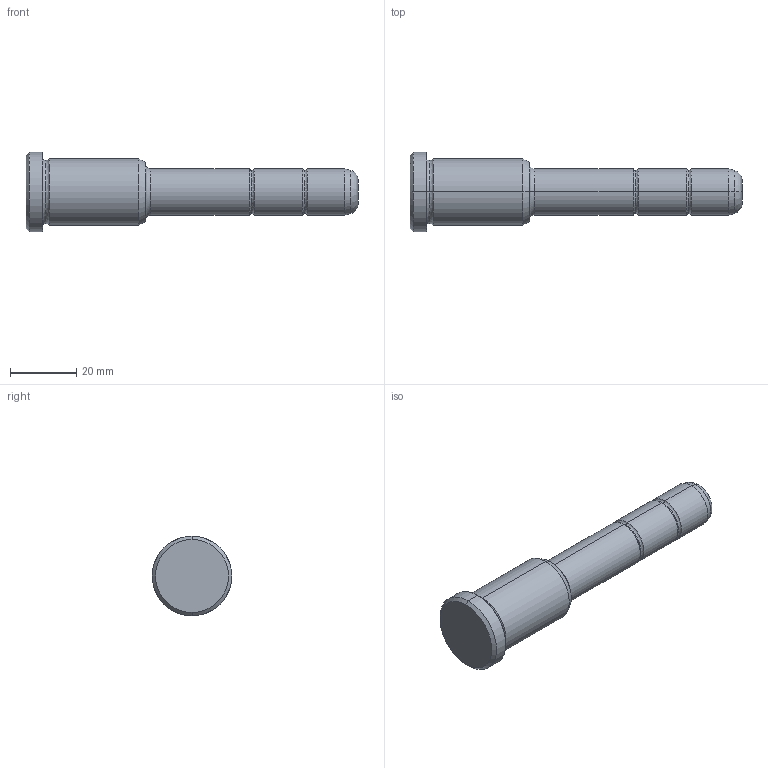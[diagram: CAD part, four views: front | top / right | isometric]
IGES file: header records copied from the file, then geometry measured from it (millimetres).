
Start section: START RECORD GO HERE.
Global section: file name: 351-14X36X100.igs; native system: DASSAULT SYSTEMES CATIA V5 R20 - www.3ds.com; preprocessor: CATIA Version 5 Release 20 ; author: Utente; organization: NB04-ASUS; date: 20210818.124522; units: millimetre
Bounding box: 100 x 24 x 24 mm (x, y, z)
Surface area: 5881.4 mm2 (no closed solid volume)
Topology: 0 solids, 0 shells, 36 faces, 204 edges, 204 vertices
Faces by surface type: revolution 32, plane 4
